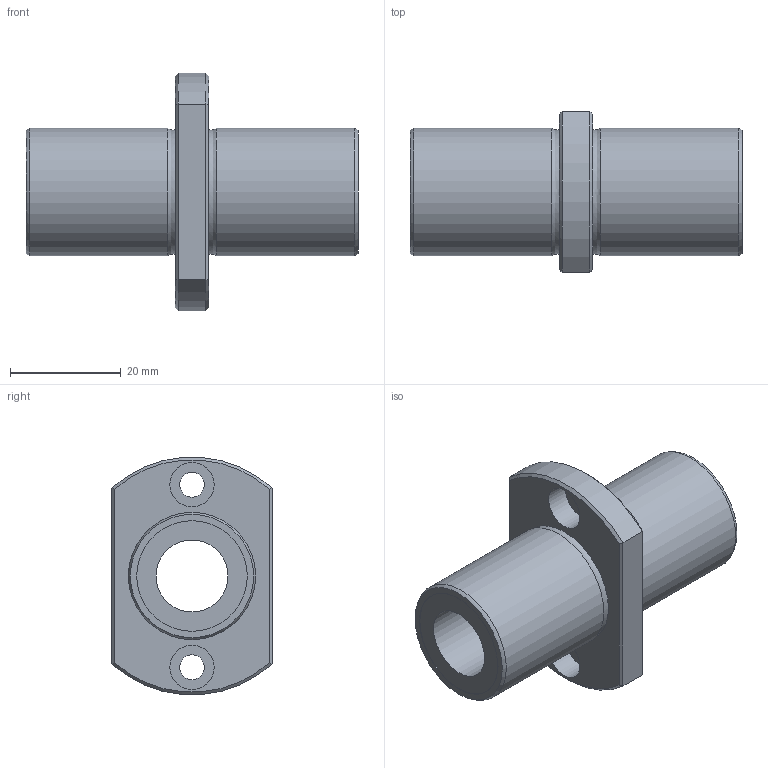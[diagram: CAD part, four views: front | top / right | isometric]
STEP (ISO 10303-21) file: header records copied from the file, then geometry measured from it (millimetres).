
FILE_DESCRIPTION((''),'2;1');
FILE_NAME('D:\製品 (図面)\カタログ用3D\リニアベアリング関連\STEP形式\LFDTC\LFDTC13.stp','2010-06-04T08:39:48',('Tsuchiya'),(''),'Autodesk Inventor 10','Autodesk Inventor 10','');
FILE_SCHEMA(('AUTOMOTIVE_DESIGN { 1 0 10303 214 1 1 1 1 }'));
Length unit declared in the file: millimetre
Products named in the file (1): LFDTC13
Bounding box: 60 x 29 x 42.85 mm (x, y, z)
Volume: 20724 mm3; surface area: 9267 mm2
Topology: 1 solids, 1 shells, 33 faces, 63 edges, 38 vertices
Faces by surface type: plane 14, cylinder 11, cone 4, torus 2, bspline 2
Full cylindrical faces by diameter (mm): 4.5 x2, 8 x2, 13 x1, 20 x2, 23 x2
Entity records: 925 total; most frequent: CARTESIAN_POINT 270, DIRECTION 136, ORIENTED_EDGE 100, AXIS2_PLACEMENT_3D 62, EDGE_LOOP 58, EDGE_CURVE 50, VERTEX_POINT 38, FACE_OUTER_BOUND 33
